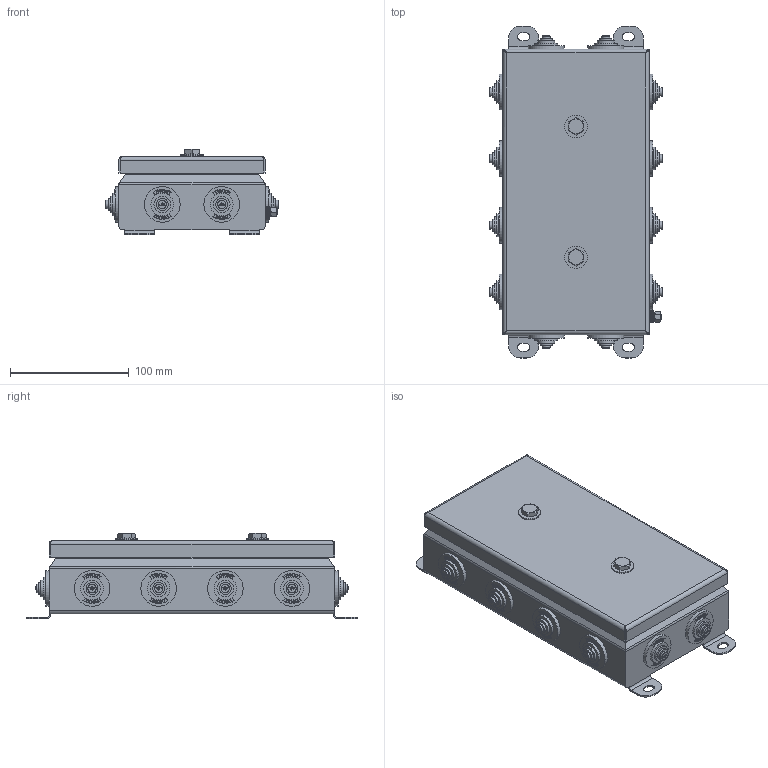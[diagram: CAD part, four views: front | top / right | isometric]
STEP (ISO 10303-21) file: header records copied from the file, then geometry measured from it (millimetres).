
FILE_DESCRIPTION(('STEP AP203'), '1');
FILE_NAME('Êîðîáêà 1224 IP55', '', ('UNSPECIFIED'), ('UNSPECIFIED'), 'ASCON STEP Converter 1.6', 'ASCON Math Kernel', '');
FILE_SCHEMA(('CONFIG_CONTROL_DESIGN'));
Length unit declared in the file: millimetre
Bounding box: 145.5 x 279 x 71.7 mm (x, y, z)
Volume: 1816355.3 mm3; surface area: 136432 mm2
Topology: 1 solids, 1 shells, 2337 faces, 6056 edges, 4002 vertices
Faces by surface type: plane 1746, extrusion 432, cylinder 131, cone 18, bspline 8, torus 2
Full cylindrical faces by diameter (mm): 3.7 x1, 5 x2, 5.5 x2, 6.5 x1, 7 x12, 10 x14, 14 x12, 17 x2, 19 x14, 30 x12
Entity records: 94613 total; most frequent: CARTESIAN_POINT 20656, ORIENTED_EDGE 11952, DIRECTION 9476, EDGE_CURVE 5976, VECTOR 5200, LINE 4768, VERTEX_POINT 4002, EDGE_LOOP 2708
